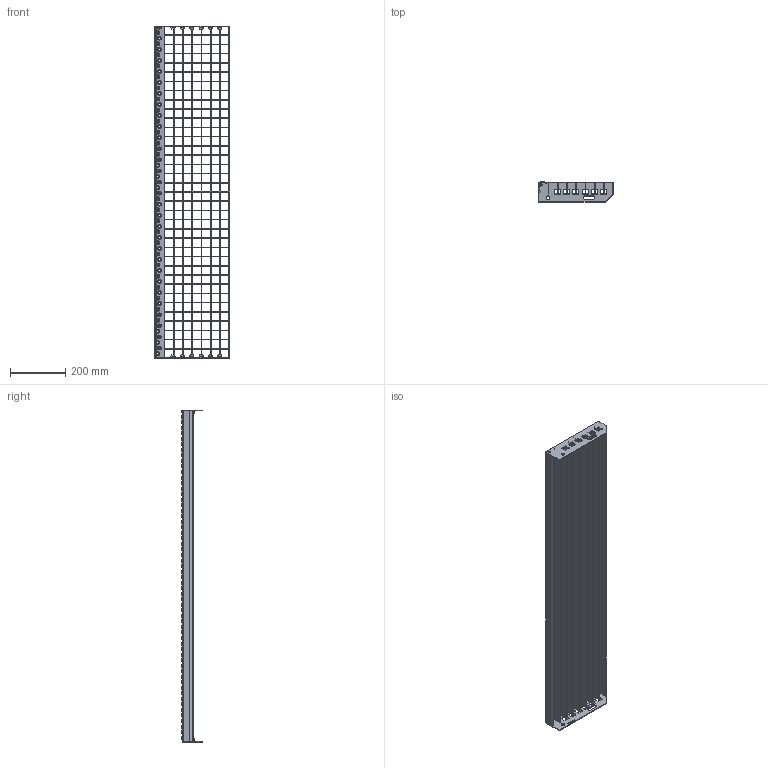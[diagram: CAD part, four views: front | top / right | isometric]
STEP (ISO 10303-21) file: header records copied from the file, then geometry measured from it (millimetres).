
FILE_DESCRIPTION(/* description */ ('','CAx-IF Rec.Pracs.---Representation and Presentation of Product Manufacturing Information (PMI)---3.8---2014-02-18'),/* implementation_level */ '2;1');
FILE_NAME(/* name */ 'C:\Users\phaverkotte\Desktop\Lager STEP\P-Stufen\P 340-33-3\P 340-33-3 1200mm x 270mm.stp',/* time_stamp */ '2018-03-24T10:22:48+01:00',/* author */ ('phaverkotte'),/* organization */ (''),/* preprocessor_version */ 'ST-DEVELOPER v16.13',/* originating_system */ 'Autodesk Inventor 2018',/* authorisation */ '');
FILE_SCHEMA (('AP242_MANAGED_MODEL_BASED_3D_ENGINEERING_MIM_LF { 1 0 10303 442 1 1 4 }'));
Length unit declared in the file: millimetre
Products named in the file (8): Schodišťový stupeň přím
ý lisovaný; Seitenplatte ausgeklinkt links; Seitenplatte 240 ausgeklinkt extern rechts; Schod nášlap; P Rošt schodu; Querstab; P Nosný pás; Hinteres Flach
Assembly tree (47 placements, depth 3):
  Schodišťový stupeň přím
ý lisovaný
    Seitenplatte ausgeklinkt links
    Seitenplatte 240 ausgeklinkt extern rechts
    Schod nášlap
    P Rošt schodu
      Querstab  x35
      P Nosný pás  x7
      Hinteres Flach
Bounding box: 271.31 x 72.75 x 1200 mm (x, y, z)
Volume: 1550501.1 mm3; surface area: 1249823.3 mm2
Topology: 46 solids, 46 shells, 1944 faces, 5375 edges, 3540 vertices
Faces by surface type: plane 1548, cone 180, cylinder 132, torus 60, bspline 24
Full cylindrical faces by diameter (mm): 8 x2, 13 x2
Entity records: 30125 total; most frequent: CARTESIAN_POINT 8600, DIRECTION 4318, ORIENTED_EDGE 4032, EDGE_CURVE 2016, AXIS2_PLACEMENT_3D 1461, VERTEX_POINT 1421, LINE 1396, VECTOR 1396
